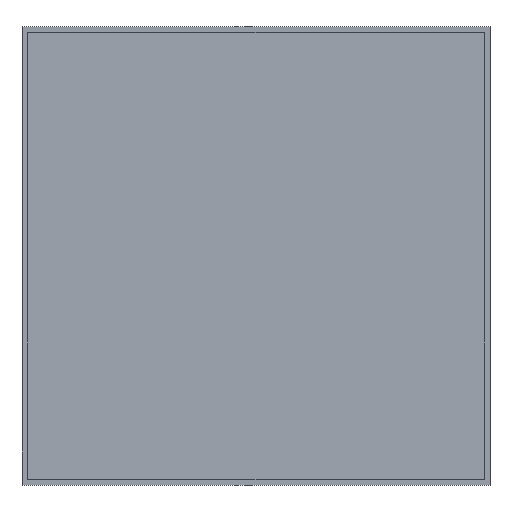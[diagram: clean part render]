
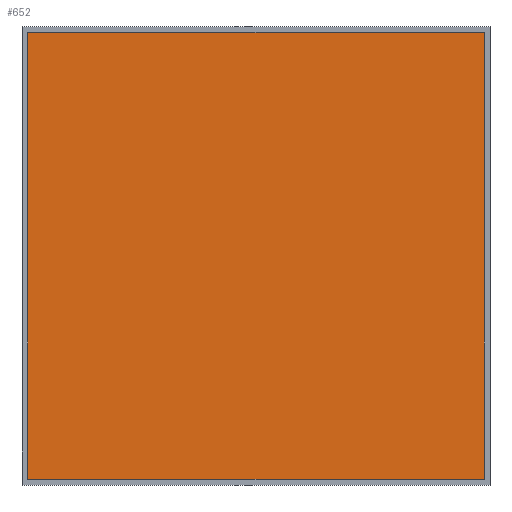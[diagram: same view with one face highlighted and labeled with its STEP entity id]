
A CAD part, top view. The second image highlights one B-rep face of the part: STEP entity #652.
In plain terms, the highlighted planar face has unit normal (0, 0, 1).
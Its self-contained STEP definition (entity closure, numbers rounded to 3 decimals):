
#282 = PLANE('',#283);
#283 = AXIS2_PLACEMENT_3D('',#284,#285,#286);
#284 = CARTESIAN_POINT('',(78.,-322.,-139.));
#285 = DIRECTION('',(-0.,1.,0.));
#286 = DIRECTION('',(0.,0.,1.));
#308 = PLANE('',#309);
#309 = AXIS2_PLACEMENT_3D('',#310,#311,#312);
#310 = CARTESIAN_POINT('',(78.,-322.,-139.));
#311 = DIRECTION('',(1.,0.,-0.));
#312 = DIRECTION('',(0.,0.,1.));
#334 = PLANE('',#335);
#335 = AXIS2_PLACEMENT_3D('',#336,#337,#338);
#336 = CARTESIAN_POINT('',(78.,-88.,-139.));
#337 = DIRECTION('',(-0.,1.,0.));
#338 = DIRECTION('',(0.,0.,1.));
#358 = PLANE('',#359);
#359 = AXIS2_PLACEMENT_3D('',#360,#361,#362);
#360 = CARTESIAN_POINT('',(317.,-322.,-139.));
#361 = DIRECTION('',(1.,0.,-0.));
#362 = DIRECTION('',(0.,0.,1.));
#456 = VERTEX_POINT('',#457);
#457 = CARTESIAN_POINT('',(317.,-322.,-139.));
#478 = EDGE_CURVE('',#479,#456,#481,.T.);
#479 = VERTEX_POINT('',#480);
#480 = CARTESIAN_POINT('',(78.,-322.,-139.));
#481 = SURFACE_CURVE('',#482,(#486,#493),.PCURVE_S1.);
#482 = LINE('',#483,#484);
#483 = CARTESIAN_POINT('',(78.,-322.,-139.));
#484 = VECTOR('',#485,1.);
#485 = DIRECTION('',(1.,0.,-0.));
#486 = PCURVE('',#282,#487);
#487 = DEFINITIONAL_REPRESENTATION('',(#488),#492);
#488 = LINE('',#489,#490);
#489 = CARTESIAN_POINT('',(0.,0.));
#490 = VECTOR('',#491,1.);
#491 = DIRECTION('',(0.,1.));
#492 = ( GEOMETRIC_REPRESENTATION_CONTEXT(2) 
PARAMETRIC_REPRESENTATION_CONTEXT() REPRESENTATION_CONTEXT('2D SPACE',''
  ) );
#493 = PCURVE('',#494,#499);
#494 = PLANE('',#495);
#495 = AXIS2_PLACEMENT_3D('',#496,#497,#498);
#496 = CARTESIAN_POINT('',(78.,-322.,-139.));
#497 = DIRECTION('',(0.,0.,1.));
#498 = DIRECTION('',(1.,0.,-0.));
#499 = DEFINITIONAL_REPRESENTATION('',(#500),#504);
#500 = LINE('',#501,#502);
#501 = CARTESIAN_POINT('',(0.,0.));
#502 = VECTOR('',#503,1.);
#503 = DIRECTION('',(1.,0.));
#504 = ( GEOMETRIC_REPRESENTATION_CONTEXT(2) 
PARAMETRIC_REPRESENTATION_CONTEXT() REPRESENTATION_CONTEXT('2D SPACE',''
  ) );
#532 = EDGE_CURVE('',#456,#533,#535,.T.);
#533 = VERTEX_POINT('',#534);
#534 = CARTESIAN_POINT('',(317.,-88.,-139.));
#535 = SURFACE_CURVE('',#536,(#540,#547),.PCURVE_S1.);
#536 = LINE('',#537,#538);
#537 = CARTESIAN_POINT('',(317.,-322.,-139.));
#538 = VECTOR('',#539,1.);
#539 = DIRECTION('',(-0.,1.,0.));
#540 = PCURVE('',#358,#541);
#541 = DEFINITIONAL_REPRESENTATION('',(#542),#546);
#542 = LINE('',#543,#544);
#543 = CARTESIAN_POINT('',(0.,0.));
#544 = VECTOR('',#545,1.);
#545 = DIRECTION('',(0.,-1.));
#546 = ( GEOMETRIC_REPRESENTATION_CONTEXT(2) 
PARAMETRIC_REPRESENTATION_CONTEXT() REPRESENTATION_CONTEXT('2D SPACE',''
  ) );
#547 = PCURVE('',#494,#548);
#548 = DEFINITIONAL_REPRESENTATION('',(#549),#553);
#549 = LINE('',#550,#551);
#550 = CARTESIAN_POINT('',(239.,0.));
#551 = VECTOR('',#552,1.);
#552 = DIRECTION('',(0.,1.));
#553 = ( GEOMETRIC_REPRESENTATION_CONTEXT(2) 
PARAMETRIC_REPRESENTATION_CONTEXT() REPRESENTATION_CONTEXT('2D SPACE',''
  ) );
#581 = EDGE_CURVE('',#582,#533,#584,.T.);
#582 = VERTEX_POINT('',#583);
#583 = CARTESIAN_POINT('',(78.,-88.,-139.));
#584 = SURFACE_CURVE('',#585,(#589,#596),.PCURVE_S1.);
#585 = LINE('',#586,#587);
#586 = CARTESIAN_POINT('',(78.,-88.,-139.));
#587 = VECTOR('',#588,1.);
#588 = DIRECTION('',(1.,0.,-0.));
#589 = PCURVE('',#334,#590);
#590 = DEFINITIONAL_REPRESENTATION('',(#591),#595);
#591 = LINE('',#592,#593);
#592 = CARTESIAN_POINT('',(0.,0.));
#593 = VECTOR('',#594,1.);
#594 = DIRECTION('',(0.,1.));
#595 = ( GEOMETRIC_REPRESENTATION_CONTEXT(2) 
PARAMETRIC_REPRESENTATION_CONTEXT() REPRESENTATION_CONTEXT('2D SPACE',''
  ) );
#596 = PCURVE('',#494,#597);
#597 = DEFINITIONAL_REPRESENTATION('',(#598),#602);
#598 = LINE('',#599,#600);
#599 = CARTESIAN_POINT('',(0.,234.));
#600 = VECTOR('',#601,1.);
#601 = DIRECTION('',(1.,0.));
#602 = ( GEOMETRIC_REPRESENTATION_CONTEXT(2) 
PARAMETRIC_REPRESENTATION_CONTEXT() REPRESENTATION_CONTEXT('2D SPACE',''
  ) );
#630 = EDGE_CURVE('',#479,#582,#631,.T.);
#631 = SURFACE_CURVE('',#632,(#636,#643),.PCURVE_S1.);
#632 = LINE('',#633,#634);
#633 = CARTESIAN_POINT('',(78.,-322.,-139.));
#634 = VECTOR('',#635,1.);
#635 = DIRECTION('',(-0.,1.,0.));
#636 = PCURVE('',#308,#637);
#637 = DEFINITIONAL_REPRESENTATION('',(#638),#642);
#638 = LINE('',#639,#640);
#639 = CARTESIAN_POINT('',(0.,0.));
#640 = VECTOR('',#641,1.);
#641 = DIRECTION('',(0.,-1.));
#642 = ( GEOMETRIC_REPRESENTATION_CONTEXT(2) 
PARAMETRIC_REPRESENTATION_CONTEXT() REPRESENTATION_CONTEXT('2D SPACE',''
  ) );
#643 = PCURVE('',#494,#644);
#644 = DEFINITIONAL_REPRESENTATION('',(#645),#649);
#645 = LINE('',#646,#647);
#646 = CARTESIAN_POINT('',(0.,0.));
#647 = VECTOR('',#648,1.);
#648 = DIRECTION('',(0.,1.));
#649 = ( GEOMETRIC_REPRESENTATION_CONTEXT(2) 
PARAMETRIC_REPRESENTATION_CONTEXT() REPRESENTATION_CONTEXT('2D SPACE',''
  ) );
#652 = ADVANCED_FACE('',(#653),#494,.T.);
#653 = FACE_BOUND('',#654,.T.);
#654 = EDGE_LOOP('',(#655,#656,#657,#658));
#655 = ORIENTED_EDGE('',*,*,#630,.F.);
#656 = ORIENTED_EDGE('',*,*,#478,.T.);
#657 = ORIENTED_EDGE('',*,*,#532,.T.);
#658 = ORIENTED_EDGE('',*,*,#581,.F.);
